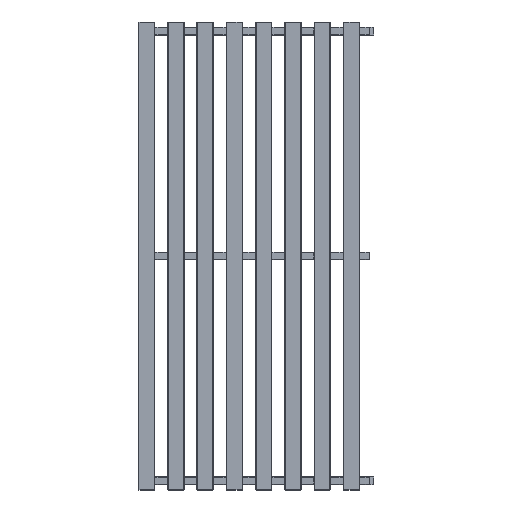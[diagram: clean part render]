
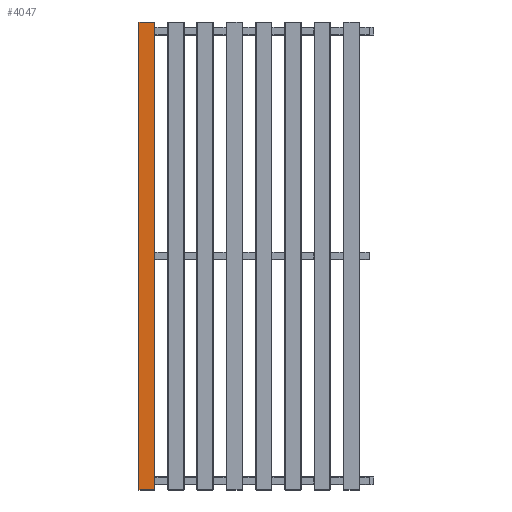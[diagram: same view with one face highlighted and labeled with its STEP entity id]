
A CAD part, top view. The second image highlights one B-rep face of the part: STEP entity #4047.
In plain terms, the highlighted planar face has unit normal (0, 0, 1) as drawn and (1, 0, 0) by its records, which use the part's own axes.
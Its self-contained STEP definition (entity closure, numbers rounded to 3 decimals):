
#88 = CARTESIAN_POINT ( 'NONE',  ( 10., 19.6, 599.5 ) ) ;
#246 = VERTEX_POINT ( 'NONE', #4011 ) ;
#263 = EDGE_LOOP ( 'NONE', ( #1660, #2710, #2907, #2008 ) ) ;
#405 = DIRECTION ( 'NONE',  ( 0., 1., 0. ) ) ;
#733 = AXIS2_PLACEMENT_3D ( 'NONE', #4499, #1017, #1803 ) ;
#738 = VECTOR ( 'NONE', #1057, 1000. ) ;
#948 = VECTOR ( 'NONE', #405, 1000. ) ;
#1017 = DIRECTION ( 'NONE',  ( -1., 0., 0. ) ) ;
#1057 = DIRECTION ( 'NONE',  ( 0., 1., 0. ) ) ;
#1395 = FACE_OUTER_BOUND ( 'NONE', #263, .T. ) ;
#1408 = VERTEX_POINT ( 'NONE', #4727 ) ;
#1474 = VERTEX_POINT ( 'NONE', #3289 ) ;
#1660 = ORIENTED_EDGE ( 'NONE', *, *, #4375, .F. ) ;
#1671 = DIRECTION ( 'NONE',  ( 0., 0., -1. ) ) ;
#1803 = DIRECTION ( 'NONE',  ( 0., 0., 1. ) ) ;
#1924 = LINE ( 'NONE', #3888, #2370 ) ;
#2008 = ORIENTED_EDGE ( 'NONE', *, *, #3308, .T. ) ;
#2082 = LINE ( 'NONE', #4398, #3215 ) ;
#2106 = EDGE_CURVE ( 'NONE', #246, #1474, #3879, .T. ) ;
#2370 = VECTOR ( 'NONE', #3096, 1000. ) ;
#2641 = EDGE_CURVE ( 'NONE', #1408, #246, #2082, .T. ) ;
#2710 = ORIENTED_EDGE ( 'NONE', *, *, #2641, .T. ) ;
#2907 = ORIENTED_EDGE ( 'NONE', *, *, #2106, .T. ) ;
#2949 = PLANE ( 'NONE',  #733 ) ;
#3096 = DIRECTION ( 'NONE',  ( 0., 0., 1. ) ) ;
#3192 = CARTESIAN_POINT ( 'NONE',  ( 10., -21., -599.5 ) ) ;
#3215 = VECTOR ( 'NONE', #1671, 1000. ) ;
#3289 = CARTESIAN_POINT ( 'NONE',  ( 10., 19.6, -599.5 ) ) ;
#3308 = EDGE_CURVE ( 'NONE', #1474, #4697, #1924, .T. ) ;
#3879 = LINE ( 'NONE', #3192, #948 ) ;
#3888 = CARTESIAN_POINT ( 'NONE',  ( 10., 19.6, 599.5 ) ) ;
#4011 = CARTESIAN_POINT ( 'NONE',  ( 10., -19.6, -599.5 ) ) ;
#4047 = ADVANCED_FACE ( 'NONE', ( #1395 ), #2949, .F. ) ;
#4375 = EDGE_CURVE ( 'NONE', #1408, #4697, #4542, .T. ) ;
#4398 = CARTESIAN_POINT ( 'NONE',  ( 10., -19.6, 599.5 ) ) ;
#4499 = CARTESIAN_POINT ( 'NONE',  ( 10., -21., 599.5 ) ) ;
#4542 = LINE ( 'NONE', #4967, #738 ) ;
#4697 = VERTEX_POINT ( 'NONE', #88 ) ;
#4727 = CARTESIAN_POINT ( 'NONE',  ( 10., -19.6, 599.5 ) ) ;
#4967 = CARTESIAN_POINT ( 'NONE',  ( 10., -21., 599.5 ) ) ;
